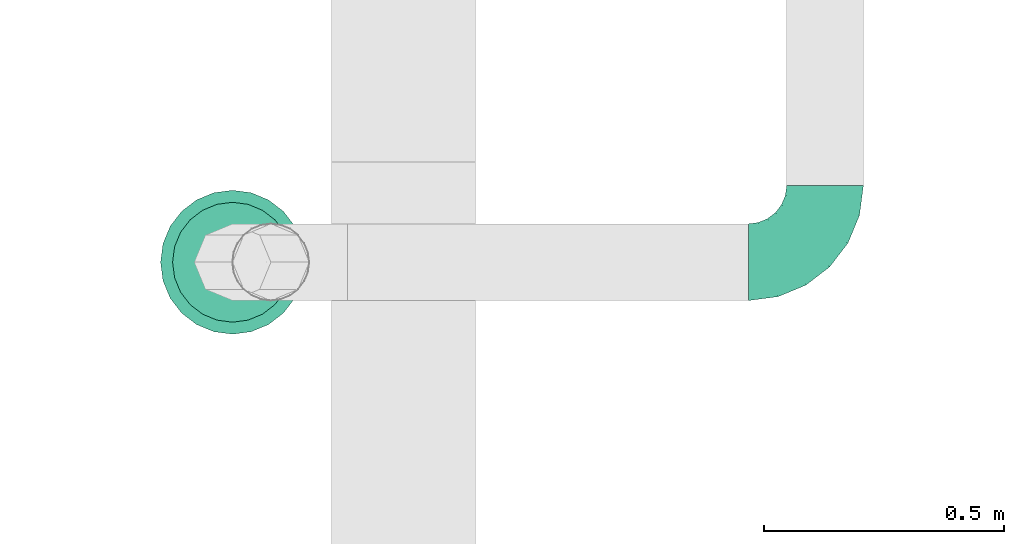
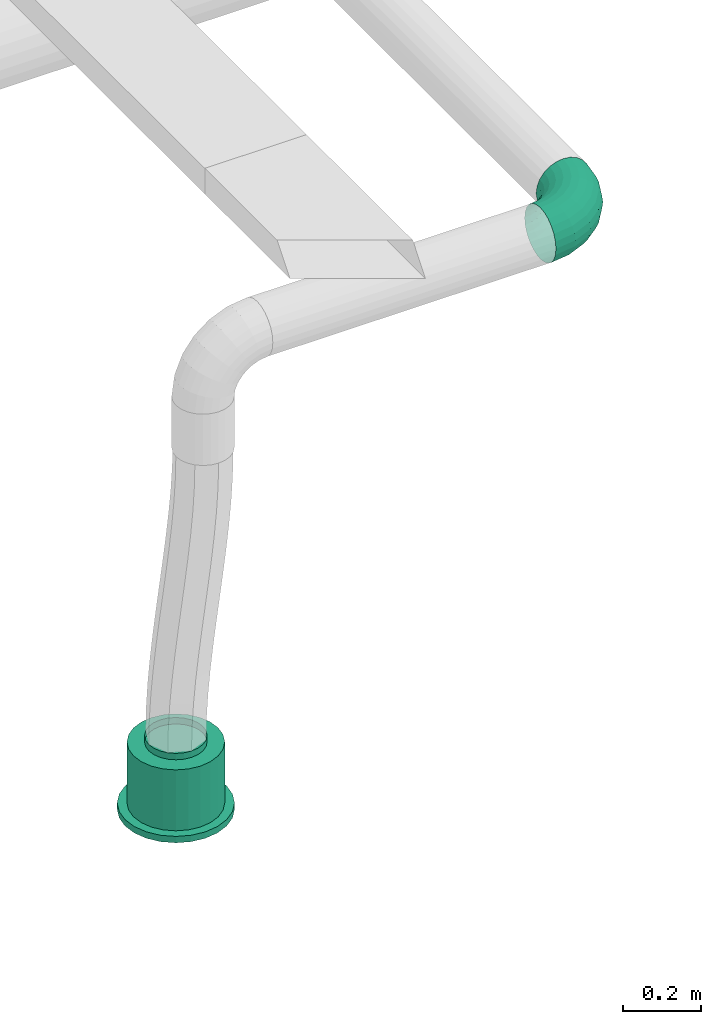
# One storey, part 37 of 374: 1 flow fitting, 1 flow terminal.
"""IFC2X3 building model written with IfcOpenShell, lengths in metres."""

import ifcopenshell
import ifcopenshell.guid

model = None  # the IFC model being written
_history = None  # IfcOwnerHistory: only IFC2X3 demands one
_inside = {}  # id of a spatial element -> (the spatial element, [elements in it])
_under = {}  # id of a project, library or spatial element -> (it, [spatial elements below it])
_declared = {}  # id of a project -> (the project, [libraries it declares])
_typed = {}  # id of a type object -> (the type object, [elements of that type])
_made_of = {}  # id of a material, layer set ... -> (it, [elements and type objects made of it])


def new_model(schema):
    """Start an empty IFC model of exactly this schema.

    Asked for "IFC4X3", IfcOpenShell would pick the latest addendum, in which some entities
    have other attributes; the version numbers below select the first issue.
    IFC2X3 requires an IfcOwnerHistory on every rooted entity: one is made here for all.
    """
    global model, _history
    if schema == "IFC4X3":
        model = ifcopenshell.file(schema_version=(4, 3, 0, 0))
    else:
        model = ifcopenshell.file(schema=schema)
    _inside.clear()
    _under.clear()
    _declared.clear()
    _typed.clear()
    _made_of.clear()
    _history = None
    if model.schema == "IFC2X3":
        org = make("IfcOrganization", Name="unknown")
        user = make(
            "IfcPersonAndOrganization",
            ThePerson=make("IfcPerson", FamilyName="unknown"),
            TheOrganization=org,
        )
        app = make(
            "IfcApplication",
            ApplicationDeveloper=org,
            Version="unknown",
            ApplicationFullName="unknown",
            ApplicationIdentifier="unknown",
        )
        _history = make(
            "IfcOwnerHistory",
            OwningUser=user,
            OwningApplication=app,
            ChangeAction="ADDED",
            CreationDate=0,
        )
    return model


def make(cls, **values):
    """One entity of the class cls with the attributes given. An attribute that is None is left unset."""
    return model.create_entity(
        cls, **{name: value for name, value in values.items() if value is not None}
    )


def rooted(cls, **values):
    """An entity with a GlobalId (a new one), such as an element, a storey or a relation."""
    return make(cls, GlobalId=ifcopenshell.guid.new(), OwnerHistory=_history, **values)


def si_unit(unit_type, name, prefix=None):
    """IfcSIUnit, for example si_unit("LENGTHUNIT", "METRE", prefix="MILLI")."""
    return make("IfcSIUnit", UnitType=unit_type, Prefix=prefix, Name=name)


def assignment(units):
    """IfcUnitAssignment: the units of a project."""
    return None if units is None else make("IfcUnitAssignment", Units=units)


def point(xyz):
    """IfcCartesianPoint."""
    return None if xyz is None else make("IfcCartesianPoint", Coordinates=xyz)


def direction(xyz):
    """IfcDirection."""
    return None if xyz is None else make("IfcDirection", DirectionRatios=xyz)


def frame(location, z_axis=None, x_axis=None):
    """IfcAxis2Placement3D, a coordinate frame: its origin and axes. An axis left out is left unset."""
    return make(
        "IfcAxis2Placement3D",
        Location=point(location),
        Axis=direction(z_axis),
        RefDirection=direction(x_axis),
    )


def origin():
    """The frame at (0, 0, 0) with its axes left unset."""
    return frame((0.0, 0.0, 0.0))


def place(relative_to, where):
    """IfcLocalPlacement: puts the frame where relative to a parent placement (None: the world)."""
    return make(
        "IfcLocalPlacement", PlacementRelTo=relative_to, RelativePlacement=where
    )


def context(
    kind, dimensions, precision=None, world=None, true_north=None, identifier=None
):
    """IfcGeometricRepresentationContext, for example the 3D "Model" context."""
    return make(
        "IfcGeometricRepresentationContext",
        ContextIdentifier=identifier,
        ContextType=kind,
        CoordinateSpaceDimension=dimensions,
        Precision=precision,
        WorldCoordinateSystem=world,
        TrueNorth=true_north,
    )


def subcontext(parent, identifier, kind, view, scale=None):
    """IfcGeometricRepresentationSubContext, for example "Body" below "Model"."""
    return make(
        "IfcGeometricRepresentationSubContext",
        ContextIdentifier=identifier,
        ContextType=kind,
        ParentContext=parent,
        TargetScale=scale,
        TargetView=view,
    )


def project(units=None, contexts=None):
    """IfcProject with its units and contexts."""
    return rooted(
        "IfcProject",
        Name="project",
        RepresentationContexts=contexts,
        UnitsInContext=assignment(units),
    )


def spatial(cls, under=None, at=None, **own):
    """A site, building, storey or space (cls), placed at a placement, below another one or the project."""
    s = rooted(cls, ObjectPlacement=at, **own)
    if under is not None:
        _under.setdefault(under.id(), (under, []))[1].append(s)
    return s


def faces_of(points, faces, orient=None, outer=None):
    """IfcFace entities. A face is a list of loops; a loop is a list of indices into points, from 0.

    orient and outer hold one flag for each loop. By default every Orientation is true, the
    first loop of a face is its IfcFaceOuterBound and the others are IfcFaceBound.
    """
    made = []
    for i, loops in enumerate(faces):
        bounds = []
        for j, loop in enumerate(loops):
            is_outer = j == 0 if outer is None else outer[i][j]
            bounds.append(
                make(
                    "IfcFaceOuterBound" if is_outer else "IfcFaceBound",
                    Bound=make("IfcPolyLoop", Polygon=[points[k] for k in loop]),
                    Orientation=True if orient is None else orient[i][j],
                )
            )
        made.append(make("IfcFace", Bounds=bounds))
    return made


def open_shell(faces, orient=None, outer=None):
    """The faces of one IfcOpenShell. surface_model builds it on its shared points."""
    return ("IfcOpenShell", faces, orient, outer)


def surface_model(cls, points, shells):
    """IfcFaceBasedSurfaceModel or IfcShellBasedSurfaceModel (cls): surfaces that need not close."""
    shared = [point(p) for p in points]
    made = [make(c, CfsFaces=faces_of(shared, fs, o, b)) for c, fs, o, b in shells]
    if cls == "IfcFaceBasedSurfaceModel":
        return make(cls, FbsmFaces=made)
    return make(cls, SbsmBoundary=made)


def shape(context_of_items, identifier, shape_type, items):
    """IfcShapeRepresentation: the items that make up one representation, for example the "Body"."""
    return make(
        "IfcShapeRepresentation",
        ContextOfItems=context_of_items,
        RepresentationIdentifier=identifier,
        RepresentationType=shape_type,
        Items=items,
    )


def source(mapping_origin, context_of_items, identifier, shape_type, items):
    """IfcRepresentationMap: a shape defined once, which mapped items show again and again."""
    return make(
        "IfcRepresentationMap",
        MappingOrigin=mapping_origin,
        MappedRepresentation=shape(context_of_items, identifier, shape_type, items),
    )


def transform(
    local_origin,
    x_axis=None,
    y_axis=None,
    z_axis=None,
    scale=None,
    scale2=None,
    scale3=None,
    uniform=True,
):
    """IfcCartesianTransformationOperator3D, or its non-uniform kind. x_axis, y_axis, z_axis: its Axis1, 2, 3."""
    if uniform:
        return make(
            "IfcCartesianTransformationOperator3D",
            Axis1=direction(x_axis),
            Axis2=direction(y_axis),
            LocalOrigin=point(local_origin),
            Scale=scale,
            Axis3=direction(z_axis),
        )
    return make(
        "IfcCartesianTransformationOperator3DnonUniform",
        Axis1=direction(x_axis),
        Axis2=direction(y_axis),
        LocalOrigin=point(local_origin),
        Scale=scale,
        Axis3=direction(z_axis),
        Scale2=scale2,
        Scale3=scale3,
    )


def mapped(mapping_source, mapping_target):
    """IfcMappedItem: shows the shape of a source again, moved by a transform."""
    return make(
        "IfcMappedItem", MappingSource=mapping_source, MappingTarget=mapping_target
    )


def made_of(thing, what):
    """Note that an element or type object is made of a material, layer set ...; save() writes the relation."""
    if what is not None:
        _made_of.setdefault(what.id(), (what, []))[1].append(thing)
    return thing


def element(
    cls,
    number,
    at=None,
    inside=None,
    cuts=None,
    type_object=None,
    material=None,
    context=None,
    identifier="Body",
    shape_type=None,
    held_by="IfcProductDefinitionShape",
    body=None,
    shapes=None,
    **own,
):
    """One element of the class cls, such as IfcWall. Its Tag is "e" and its number.

    at: its placement. inside: the storey or other place that contains it. cuts: it is an
    opening in that element (IfcRelVoidsElement). A single representation is given by context,
    identifier, shape_type and body (its items); several are given by shapes. held_by: the class
    of the entity that holds the representations. save() writes the other relations.
    """
    e = rooted(cls, Tag="e%d" % number, ObjectPlacement=at, **own)
    if body is not None:
        shapes = [shape(context, identifier, shape_type, body)]
    if shapes is not None:
        e.Representation = make(held_by, Representations=shapes)
    if inside is not None:
        _inside.setdefault(inside.id(), (inside, []))[1].append(e)
    if cuts is not None:
        rooted(
            "IfcRelVoidsElement", RelatingBuildingElement=cuts, RelatedOpeningElement=e
        )
    if type_object is not None:
        _typed.setdefault(type_object.id(), (type_object, []))[1].append(e)
    return made_of(e, material)


def aggregate(whole, parts):
    """IfcRelAggregates: a whole, such as a stair, and the parts it consists of."""
    return rooted("IfcRelAggregates", RelatingObject=whole, RelatedObjects=parts)


def save(model, path):
    """Write the relations noted so far, then the file.

    IfcRelAggregates (storeys below a building ...), IfcRelContainedInSpatialStructure (elements
    in a storey), IfcRelDefinesByType, IfcRelAssociatesMaterial and IfcRelDeclares: one each for
    every whole, place, type object, material and project.
    """
    for whole, parts in _under.values():
        aggregate(whole, parts)
    for where, things in _inside.values():
        rooted(
            "IfcRelContainedInSpatialStructure",
            RelatedElements=things,
            RelatingStructure=where,
        )
    for kind, things in _typed.values():
        rooted("IfcRelDefinesByType", RelatedObjects=things, RelatingType=kind)
    for what, things in _made_of.values():
        rooted("IfcRelAssociatesMaterial", RelatedObjects=things, RelatingMaterial=what)
    for by, libraries in _declared.values():
        rooted("IfcRelDeclares", RelatingContext=by, RelatedDefinitions=libraries)
    model.write(path)


model = new_model("IFC2X3")

# Units and contexts
model_context = context("Model", 3, precision=1e-05, world=origin(), true_north=direction((-0.4480736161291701, 0.8939966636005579)))
body_context = subcontext(model_context, "Body", "Model", "MODEL_VIEW")
ifc_project = project(units=[si_unit("LENGTHUNIT", "METRE"), si_unit("AREAUNIT", "SQUARE_METRE"), si_unit("VOLUMEUNIT", "CUBIC_METRE"), si_unit("PLANEANGLEUNIT", "RADIAN"), si_unit("THERMODYNAMICTEMPERATUREUNIT", "KELVIN"), si_unit("MASSUNIT", "GRAM", prefix="KILO"), si_unit("TIMEUNIT", "SECOND")], contexts=[model_context])

# Site, building, storey
site_placement = place(None, origin())
site = spatial("IfcSite", under=ifc_project, at=site_placement, Name="Site 1", CompositionType="ELEMENT")
building_placement = place(site_placement, origin())
building = spatial("IfcBuilding", under=site, at=building_placement, Name="Undefined", CompositionType="ELEMENT")
storey_placement = place(building_placement, origin())
storey = spatial("IfcBuildingStorey", under=building, at=storey_placement, Name="Rez de chauss\x8ee", CompositionType="ELEMENT", Elevation=0.0)

# Flow terminal
shared_shape_1 = source(origin(), body_context, "Body", "SurfaceModel", [
    surface_model("IfcFaceBasedSurfaceModel", [(0.0, 0.0, 0.0), (0.03915785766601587, 0.0, 0.0), (0.03915785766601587, 0.020000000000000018, 0.0), (3.552713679e-15, 0.020000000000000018, 0.0), (0.07698144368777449, 0.0, -0.010134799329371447), (0.07698144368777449, 0.020000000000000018, -0.010134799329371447), (0.11089314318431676, 0.0, -0.02971372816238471), (0.11089314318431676, 0.020000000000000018, -0.02971372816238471), (0.13858192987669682, 0.0, -0.05740251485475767), (0.13858192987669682, 0.020000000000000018, -0.05740251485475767), (0.15816085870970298, 0.0, -0.09131421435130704), (0.15816085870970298, 0.020000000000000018, -0.09131421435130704), (0.16829565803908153, 0.0, -0.12913780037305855), (0.16829565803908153, 0.020000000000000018, -0.12913780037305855), (0.16829565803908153, 0.0, -0.16829565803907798), (0.16829565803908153, 0.020000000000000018, -0.16829565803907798), (0.15816085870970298, 0.0, -0.20611924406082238), (0.15816085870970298, 0.020000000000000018, -0.20611924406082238), (0.13858192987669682, 0.0, -0.24003094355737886), (0.13858192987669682, 0.020000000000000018, -0.24003094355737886), (0.11089314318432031, 0.0, -0.2677197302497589), (0.11089314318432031, 0.020000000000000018, -0.2677197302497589), (0.07698144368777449, 0.0, -0.2872986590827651), (0.07698144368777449, 0.020000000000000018, -0.2872986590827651), (0.039157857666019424, 0.0, -0.29743345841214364), (0.039157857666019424, 0.020000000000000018, -0.29743345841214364), (3.552713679e-15, 0.0, -0.29743345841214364), (3.552713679e-15, 0.020000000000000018, -0.29743345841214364), (-0.03782358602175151, 0.0, -0.2872986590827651), (-0.03782358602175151, 0.020000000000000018, -0.2872986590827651), (-0.07173528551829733, 0.0, -0.2677197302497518), (-0.07173528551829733, 0.020000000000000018, -0.2677197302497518), (-0.0994240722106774, 0.0, -0.24003094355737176), (-0.0994240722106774, 0.020000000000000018, -0.24003094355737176), (-0.11900300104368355, 0.0, -0.2061192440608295), (-0.11900300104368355, 0.020000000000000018, -0.2061192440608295), (-0.1291378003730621, 0.0, -0.16829565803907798), (-0.1291378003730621, 0.020000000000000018, -0.16829565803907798), (-0.1291378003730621, 0.0, -0.12913780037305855), (-0.1291378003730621, 0.020000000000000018, -0.12913780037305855), (-0.11900300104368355, 0.0, -0.09131421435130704), (-0.11900300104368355, 0.020000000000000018, -0.09131421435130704), (-0.0994240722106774, 0.0, -0.05740251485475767), (-0.0994240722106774, 0.020000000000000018, -0.05740251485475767), (-0.07173528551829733, 0.0, -0.029713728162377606), (-0.07173528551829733, 0.020000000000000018, -0.029713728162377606), (-0.03782358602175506, 0.0, -0.010134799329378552), (-0.03782358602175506, 0.020000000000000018, -0.010134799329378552), (0.019578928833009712, 0.0, -0.14871672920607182), (0.019578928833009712, 0.020000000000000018, -0.14871672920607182), (0.003263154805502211, 0.020000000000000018, -0.02478612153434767), (0.035894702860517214, 0.020000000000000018, -0.02478612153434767), (0.035894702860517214, 0.20999999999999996, -0.02478612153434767), (0.003263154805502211, 0.20999999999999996, -0.02478612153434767), (0.06741435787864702, 0.020000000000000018, -0.033231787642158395), (0.06741435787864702, 0.20999999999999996, -0.033231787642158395), (0.0956741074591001, 0.020000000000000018, -0.04954756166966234), (0.0956741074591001, 0.20999999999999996, -0.04954756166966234), (0.11874809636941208, 0.020000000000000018, -0.07262155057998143), (0.11874809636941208, 0.20999999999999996, -0.07262155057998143), (0.13506387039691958, 0.020000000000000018, -0.10088130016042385), (0.13506387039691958, 0.20999999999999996, -0.10088130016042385), (0.1435095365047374, 0.020000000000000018, -0.13240095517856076), (0.1435095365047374, 0.20999999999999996, -0.13240095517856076), (0.1435095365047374, 0.020000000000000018, -0.16503250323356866), (0.1435095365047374, 0.20999999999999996, -0.16503250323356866), (0.13506387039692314, 0.020000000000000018, -0.19655215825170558), (0.13506387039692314, 0.20999999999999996, -0.19655215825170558), (0.11874809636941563, 0.020000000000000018, -0.2248119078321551), (0.11874809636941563, 0.20999999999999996, -0.2248119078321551), (0.09567410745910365, 0.020000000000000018, -0.24788589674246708), (0.09567410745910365, 0.20999999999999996, -0.24788589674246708), (0.06741435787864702, 0.020000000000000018, -0.26420167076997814), (0.06741435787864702, 0.20999999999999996, -0.26420167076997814), (0.035894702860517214, 0.020000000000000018, -0.27264733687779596), (0.035894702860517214, 0.20999999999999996, -0.27264733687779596), (0.0032631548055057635, 0.020000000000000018, -0.27264733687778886), (0.0032631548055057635, 0.20999999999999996, -0.27264733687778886), (-0.028256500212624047, 0.020000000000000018, -0.26420167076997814), (-0.028256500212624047, 0.20999999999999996, -0.26420167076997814), (-0.05651624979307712, 0.020000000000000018, -0.2478858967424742), (-0.05651624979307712, 0.20999999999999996, -0.2478858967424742), (-0.07959023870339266, 0.020000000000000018, -0.2248119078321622), (-0.07959023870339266, 0.20999999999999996, -0.2248119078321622), (-0.09590601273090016, 0.020000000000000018, -0.19655215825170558), (-0.09590601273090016, 0.20999999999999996, -0.19655215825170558), (-0.10435167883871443, 0.020000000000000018, -0.16503250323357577), (-0.10435167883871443, 0.20999999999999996, -0.16503250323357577), (-0.10435167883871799, 0.020000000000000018, -0.13240095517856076), (-0.10435167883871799, 0.20999999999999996, -0.13240095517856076), (-0.09590601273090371, 0.020000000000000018, -0.10088130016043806), (-0.09590601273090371, 0.20999999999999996, -0.10088130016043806), (-0.07959023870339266, 0.020000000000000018, -0.07262155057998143), (-0.07959023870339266, 0.20999999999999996, -0.07262155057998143), (-0.056516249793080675, 0.020000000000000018, -0.04954756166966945), (-0.056516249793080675, 0.20999999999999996, -0.04954756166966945), (-0.028256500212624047, 0.020000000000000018, -0.033231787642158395), (-0.028256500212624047, 0.20999999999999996, -0.033231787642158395), (0.019578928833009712, 0.20999999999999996, -0.14871672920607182), (0.009136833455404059, 0.20999999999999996, -0.06940114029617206), (0.030021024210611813, 0.20999999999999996, -0.06940114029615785), (0.030021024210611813, 0.22999999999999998, -0.06940114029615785), (0.009136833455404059, 0.22999999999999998, -0.06940114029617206), (0.05019360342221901, 0.20999999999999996, -0.07480636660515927), (0.05019360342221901, 0.22999999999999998, -0.07480636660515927), (0.06827984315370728, 0.20999999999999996, -0.08524846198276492), (0.06827984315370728, 0.22999999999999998, -0.08524846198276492), (0.0830471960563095, 0.20999999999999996, -0.10001581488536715), (0.0830471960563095, 0.22999999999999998, -0.10001581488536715), (0.0934892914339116, 0.20999999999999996, -0.11810205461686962), (0.0934892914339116, 0.22999999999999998, -0.11810205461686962), (0.09889451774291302, 0.20999999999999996, -0.13827463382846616), (0.09889451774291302, 0.22999999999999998, -0.13827463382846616), (0.09889451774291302, 0.20999999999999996, -0.15915882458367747), (0.09889451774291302, 0.22999999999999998, -0.15915882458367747), (0.09348929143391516, 0.20999999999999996, -0.179331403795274), (0.09348929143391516, 0.22999999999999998, -0.179331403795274), (0.0830471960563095, 0.20999999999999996, -0.19741764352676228), (0.0830471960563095, 0.22999999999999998, -0.19741764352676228), (0.06827984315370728, 0.20999999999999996, -0.2121849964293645), (0.06827984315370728, 0.22999999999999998, -0.2121849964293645), (0.05019360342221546, 0.20999999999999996, -0.22262709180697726), (0.05019360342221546, 0.22999999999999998, -0.22262709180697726), (0.030021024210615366, 0.20999999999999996, -0.22803231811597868), (0.030021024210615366, 0.22999999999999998, -0.22803231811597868), (0.009136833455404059, 0.20999999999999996, -0.22803231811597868), (0.009136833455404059, 0.22999999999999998, -0.22803231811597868), (-0.011035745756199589, 0.20999999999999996, -0.22262709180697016), (-0.011035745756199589, 0.22999999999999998, -0.22262709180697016), (-0.0291219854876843, 0.20999999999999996, -0.2121849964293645), (-0.0291219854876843, 0.22999999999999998, -0.2121849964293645), (-0.043889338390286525, 0.20999999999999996, -0.19741764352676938), (-0.043889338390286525, 0.22999999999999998, -0.19741764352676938), (-0.05433143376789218, 0.20999999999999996, -0.17933140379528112), (-0.05433143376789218, 0.22999999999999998, -0.17933140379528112), (-0.05973666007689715, 0.20999999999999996, -0.15915882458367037), (-0.05973666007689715, 0.22999999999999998, -0.15915882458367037), (-0.0597366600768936, 0.20999999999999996, -0.13827463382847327), (-0.0597366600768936, 0.22999999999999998, -0.13827463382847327), (-0.05433143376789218, 0.20999999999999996, -0.11810205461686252), (-0.05433143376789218, 0.22999999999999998, -0.11810205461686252), (-0.043889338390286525, 0.20999999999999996, -0.10001581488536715), (-0.043889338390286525, 0.22999999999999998, -0.10001581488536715), (-0.02912198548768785, 0.20999999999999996, -0.08524846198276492), (-0.02912198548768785, 0.22999999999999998, -0.08524846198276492), (-0.011035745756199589, 0.20999999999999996, -0.07480636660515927), (-0.011035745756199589, 0.22999999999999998, -0.07480636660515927)], [open_shell([[[0, 1, 2, 3]], [[1, 4, 5, 2]], [[4, 6, 7, 5]], [[6, 8, 9, 7]], [[8, 10, 11, 9]], [[10, 12, 13, 11]], [[12, 14, 15, 13]], [[14, 16, 17, 15]], [[16, 18, 19, 17]], [[18, 20, 21, 19]], [[20, 22, 23, 21]], [[22, 24, 25, 23]], [[24, 26, 27, 25]], [[26, 28, 29, 27]], [[28, 30, 31, 29]], [[30, 32, 33, 31]], [[32, 34, 35, 33]], [[34, 36, 37, 35]], [[36, 38, 39, 37]], [[38, 40, 41, 39]], [[40, 42, 43, 41]], [[42, 44, 45, 43]], [[44, 46, 47, 45]], [[46, 0, 3, 47]], [[48, 1, 0]], [[48, 4, 1]], [[48, 6, 4]], [[48, 8, 6]], [[48, 10, 8]], [[48, 12, 10]], [[48, 14, 12]], [[48, 16, 14]], [[48, 18, 16]], [[48, 20, 18]], [[48, 22, 20]], [[48, 24, 22]], [[48, 26, 24]], [[48, 28, 26]], [[48, 30, 28]], [[48, 32, 30]], [[48, 34, 32]], [[48, 36, 34]], [[48, 38, 36]], [[48, 40, 38]], [[48, 42, 40]], [[48, 44, 42]], [[48, 46, 44]], [[48, 0, 46]], [[49, 47, 3]], [[49, 45, 47]], [[49, 43, 45]], [[49, 41, 43]], [[49, 39, 41]], [[49, 37, 39]], [[49, 35, 37]], [[49, 33, 35]], [[49, 31, 33]], [[49, 29, 31]], [[49, 27, 29]], [[49, 25, 27]], [[49, 23, 25]], [[49, 21, 23]], [[49, 19, 21]], [[49, 17, 19]], [[49, 15, 17]], [[49, 13, 15]], [[49, 11, 13]], [[49, 9, 11]], [[49, 7, 9]], [[49, 5, 7]], [[49, 2, 5]], [[49, 3, 2]], [[50, 51, 52, 53]], [[51, 54, 55, 52]], [[54, 56, 57, 55]], [[56, 58, 59, 57]], [[58, 60, 61, 59]], [[60, 62, 63, 61]], [[62, 64, 65, 63]], [[64, 66, 67, 65]], [[66, 68, 69, 67]], [[68, 70, 71, 69]], [[70, 72, 73, 71]], [[72, 74, 75, 73]], [[74, 76, 77, 75]], [[76, 78, 79, 77]], [[78, 80, 81, 79]], [[80, 82, 83, 81]], [[82, 84, 85, 83]], [[84, 86, 87, 85]], [[86, 88, 89, 87]], [[88, 90, 91, 89]], [[90, 92, 93, 91]], [[92, 94, 95, 93]], [[94, 96, 97, 95]], [[96, 50, 53, 97]], [[49, 51, 50]], [[49, 54, 51]], [[49, 56, 54]], [[49, 58, 56]], [[49, 60, 58]], [[49, 62, 60]], [[49, 64, 62]], [[49, 66, 64]], [[49, 68, 66]], [[49, 70, 68]], [[49, 72, 70]], [[49, 74, 72]], [[49, 76, 74]], [[49, 78, 76]], [[49, 80, 78]], [[49, 82, 80]], [[49, 84, 82]], [[49, 86, 84]], [[49, 88, 86]], [[49, 90, 88]], [[49, 92, 90]], [[49, 94, 92]], [[49, 96, 94]], [[49, 50, 96]], [[98, 97, 53]], [[98, 95, 97]], [[98, 93, 95]], [[98, 91, 93]], [[98, 89, 91]], [[98, 87, 89]], [[98, 85, 87]], [[98, 83, 85]], [[98, 81, 83]], [[98, 79, 81]], [[98, 77, 79]], [[98, 75, 77]], [[98, 73, 75]], [[98, 71, 73]], [[98, 69, 71]], [[98, 67, 69]], [[98, 65, 67]], [[98, 63, 65]], [[98, 61, 63]], [[98, 59, 61]], [[98, 57, 59]], [[98, 55, 57]], [[98, 52, 55]], [[98, 53, 52]], [[99, 100, 101, 102]], [[100, 103, 104, 101]], [[103, 105, 106, 104]], [[105, 107, 108, 106]], [[107, 109, 110, 108]], [[109, 111, 112, 110]], [[111, 113, 114, 112]], [[113, 115, 116, 114]], [[115, 117, 118, 116]], [[117, 119, 120, 118]], [[119, 121, 122, 120]], [[121, 123, 124, 122]], [[123, 125, 126, 124]], [[125, 127, 128, 126]], [[127, 129, 130, 128]], [[129, 131, 132, 130]], [[131, 133, 134, 132]], [[133, 135, 136, 134]], [[135, 137, 138, 136]], [[137, 139, 140, 138]], [[139, 141, 142, 140]], [[141, 143, 144, 142]], [[143, 145, 146, 144]], [[145, 99, 102, 146]]])]),
])
flow_terminal_placement = place(storey_placement, origin())
element("IfcFlowTerminal", 1, at=flow_terminal_placement, inside=storey, Name="Air diffuseur - bouche", ObjectType="Air diffuseur - bouche", context=body_context, shape_type="MappedRepresentation", body=[
    mapped(shared_shape_1, transform((9.204632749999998, 21.301586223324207, 2.38), x_axis=(-0.13052619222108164, 0.9914448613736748, 0.0), y_axis=(0.0, 0.0, 1.0), z_axis=(0.9914448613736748, 0.13052619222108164, 0.0))),
])

# Flow fitting
shared_shape_2 = source(origin(), body_context, "Body", "SurfaceModel", [
    surface_model("IfcFaceBasedSurfaceModel", [(0.06265257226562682, -8.8817842e-16, 0.0), (0.062296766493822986, 0.02088115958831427, -7.105427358e-15), (0.0003558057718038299, 0.020881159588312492, 7.105427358e-15), (0.0, 0.0, 0.0), (-0.059474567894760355, 0.022956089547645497, -0.015896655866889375), (-0.06051773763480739, 0.002098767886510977, -0.01607928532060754), (-0.11311701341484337, 0.02696454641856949, -0.04660663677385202), (-0.11477645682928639, 0.006153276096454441, -0.04714207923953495), (-0.15691588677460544, 0.0326333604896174, -0.09003710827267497), (-0.15907851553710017, 0.01188721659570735, -0.09107150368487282), (-0.18788636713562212, 0.03957621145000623, -0.14322835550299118), (-0.1904048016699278, 0.01890983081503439, -0.14487384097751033), (-0.2039178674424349, 0.04731995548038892, -0.20255548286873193), (-0.20662048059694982, 0.026742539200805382, -0.20488255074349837), (0.061253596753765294, 0.04103889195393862, -0.0053597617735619), (0.0013989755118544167, 0.04103889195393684, -0.005359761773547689), (-0.05641614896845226, 0.04304393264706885, -0.02072097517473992), (-0.10825177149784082, 0.04691737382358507, -0.050396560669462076), (-0.15057538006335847, 0.05239524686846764, -0.09236417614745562), (-0.18050269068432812, 0.05910424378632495, -0.14376379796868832), (-0.19599420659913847, 0.06658715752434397, -0.20109262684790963), (0.05959415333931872, 0.05909948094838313, -0.01571402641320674), (0.003058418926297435, 0.05909948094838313, -0.01571402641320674), (-0.05155090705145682, 0.06099334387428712, -0.030223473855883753), (-0.10051228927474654, 0.06465200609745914, -0.058253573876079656), (-0.1404890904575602, 0.0698261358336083, -0.09789412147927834), (-0.16875695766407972, 0.0761631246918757, -0.14644367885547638), (-0.18338948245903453, 0.08323111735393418, -0.2005936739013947), (0.057431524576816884, 0.07383212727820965, -0.030357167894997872), (0.005221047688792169, 0.07383212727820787, -0.03035716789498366), (-0.0452104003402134, 0.07558110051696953, -0.04375657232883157), (-0.09042599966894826, 0.07895985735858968, -0.06964223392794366), (-0.12734438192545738, 0.08373814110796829, -0.10625008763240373), (-0.15344962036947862, 0.08959031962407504, -0.15108536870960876), (-0.16696268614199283, 0.0961175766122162, -0.20109262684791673), (0.054913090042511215, 0.0842328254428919, -0.048291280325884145), (0.007739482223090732, 0.08423282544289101, -0.04829128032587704), (-0.037826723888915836, 0.08581307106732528, -0.06039801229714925), (-0.07868026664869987, 0.08886587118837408, -0.08378642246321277), (-0.11203704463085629, 0.09318318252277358, -0.11686262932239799), (-0.13562384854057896, 0.09847078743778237, -0.1573725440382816), (-0.14783327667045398, 0.10436834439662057, -0.20255548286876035), (0.05221047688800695, 0.0895927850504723, -0.06829418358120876), (0.010442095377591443, 0.08959278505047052, -0.06829418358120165), (-0.029903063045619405, 0.09099196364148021, -0.07901370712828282), (-0.06607554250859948, 0.09369496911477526, -0.0997222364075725), (-0.0956102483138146, 0.0975175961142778, -0.12900851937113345), (-0.11649443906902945, 0.10219933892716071, -0.16487674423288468), (-0.12730489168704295, 0.1074211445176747, -0.2048825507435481), (0.04950786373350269, 0.08954673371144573, -0.08900271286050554), (0.013144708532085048, 0.08954673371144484, -0.08900271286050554), (-0.02197940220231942, 0.09076484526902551, -0.09833502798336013), (-0.05347081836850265, 0.09311805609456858, -0.11636367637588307), (-0.0791834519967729, 0.09644599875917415, -0.14186003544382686), (-0.09736502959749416, 0.10052187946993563, -0.17308657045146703), (-0.10677650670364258, 0.1050679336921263, -0.20791524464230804), (0.04698942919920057, 0.08409780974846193, -0.10900561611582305), (0.015663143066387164, 0.08409780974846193, -0.10900561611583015), (-0.014595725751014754, 0.08514719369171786, -0.11704525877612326), (-0.0417250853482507, 0.0871744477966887, -0.13257665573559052), (-0.06387611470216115, 0.09004141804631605, -0.15454136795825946), (-0.07953925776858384, 0.09355272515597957, -0.1814425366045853), (-0.08764709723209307, 0.09746907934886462, -0.21144689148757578), (0.04482680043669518, 0.0736173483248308, -0.12693972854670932), (0.017825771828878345, 0.0736173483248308, -0.12693972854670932), (-0.008255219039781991, 0.07452184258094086, -0.13386932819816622), (-0.03163879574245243, 0.0762691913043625, -0.14725628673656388), (-0.050731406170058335, 0.07874031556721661, -0.1661883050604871), (-0.06423192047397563, 0.08176681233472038, -0.18937519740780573), (-0.07122030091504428, 0.08514243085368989, -0.21523681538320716), (0.04316735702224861, 0.058819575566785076, -0.14158287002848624), (0.019485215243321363, 0.058819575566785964, -0.14158287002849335), (-0.0033899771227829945, 0.05961289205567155, -0.14766070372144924), (-0.02389931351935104, 0.06114546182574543, -0.15940217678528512), (-0.04064511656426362, 0.06331284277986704, -0.17600712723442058), (-0.052486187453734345, 0.06596733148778, -0.19634395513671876), (-0.05861557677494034, 0.06892802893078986, -0.2190267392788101), (0.04212418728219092, 0.040712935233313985, -0.15193713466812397), (0.020528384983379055, 0.040712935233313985, -0.15193713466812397), (-0.0003315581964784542, 0.041436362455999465, -0.15747952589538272), (-0.019034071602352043, 0.04283391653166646, -0.16818660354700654), (-0.03430460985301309, 0.04481035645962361, -0.1833286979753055), (-0.04510251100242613, 0.047230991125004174, -0.20187390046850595), (-0.05069191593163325, 0.04993085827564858, -0.22255838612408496), (0.04176838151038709, 0.02053136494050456, -0.15729689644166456), (0.020884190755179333, 0.02053136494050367, -0.15729689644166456), (0.0007116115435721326, 0.021230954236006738, -0.16265665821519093), (-0.017374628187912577, 0.022582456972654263, -0.17301092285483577), (-0.03214198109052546, 0.024493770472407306, -0.1876540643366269), (-0.042584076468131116, 0.026834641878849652, -0.20558817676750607), (-0.04798930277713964, 0.02944554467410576, -0.22559108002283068), (0.04212418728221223, -0.000349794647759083, -0.15729689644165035), (0.020528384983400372, -0.000349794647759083, -0.15729689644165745), (-0.0003315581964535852, 0.00037363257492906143, -0.1628392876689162), (-0.019034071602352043, 0.0017711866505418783, -0.17354636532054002), (-0.03430460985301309, 0.0037476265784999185, -0.18868845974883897), (-0.04510251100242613, 0.00616826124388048, -0.20723366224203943), (-0.05069191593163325, 0.008868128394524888, -0.22791814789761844), (0.04316735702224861, -0.020507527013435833, -0.15193713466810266), (0.019485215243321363, -0.020507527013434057, -0.15193713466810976), (-0.0033899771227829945, -0.019714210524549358, -0.15801496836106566), (-0.02389931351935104, -0.01818164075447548, -0.16975644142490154), (-0.04064511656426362, -0.01601425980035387, -0.186361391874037), (-0.052486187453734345, -0.013359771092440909, -0.20669821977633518), (-0.05861557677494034, -0.010399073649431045, -0.22938100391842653), (0.04482680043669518, -0.03856811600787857, -0.1415828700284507), (0.017825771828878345, -0.03856811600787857, -0.1415828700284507), (-0.008255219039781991, -0.03766362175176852, -0.1485124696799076), (-0.03163879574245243, -0.03591627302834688, -0.16189942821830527), (-0.050731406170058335, -0.03344514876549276, -0.1808314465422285), (-0.06423192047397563, -0.030418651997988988, -0.20401833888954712), (-0.07122030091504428, -0.027043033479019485, -0.22987995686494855), (0.04698942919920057, -0.05330076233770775, -0.12693972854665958), (0.015663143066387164, -0.05330076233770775, -0.12693972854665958), (-0.014595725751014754, -0.05225137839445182, -0.1349793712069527), (-0.0417250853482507, -0.05022412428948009, -0.15051076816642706), (-0.06387611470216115, -0.047357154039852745, -0.172475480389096), (-0.07953925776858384, -0.043845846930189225, -0.19937664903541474), (-0.08764709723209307, -0.03992949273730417, -0.2293810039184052), (0.04950786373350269, -0.06370146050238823, -0.10900561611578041), (0.013144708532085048, -0.06370146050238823, -0.10900561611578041), (-0.02197940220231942, -0.06248334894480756, -0.11833793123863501), (-0.05347081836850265, -0.06013013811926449, -0.13636657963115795), (-0.0791834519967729, -0.05680219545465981, -0.16186293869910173), (-0.09736502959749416, -0.05272631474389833, -0.1930894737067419), (-0.10677650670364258, -0.04818026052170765, -0.2279181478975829), (0.05221047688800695, -0.06906142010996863, -0.08900271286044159), (0.010442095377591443, -0.06906142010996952, -0.08900271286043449), (-0.029903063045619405, -0.06766224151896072, -0.09972223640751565), (-0.06607554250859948, -0.06495923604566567, -0.12043076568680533), (-0.0956102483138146, -0.06113660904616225, -0.14971704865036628), (-0.11649443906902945, -0.05645486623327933, -0.1855852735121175), (-0.12730489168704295, -0.05123306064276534, -0.22559108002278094), (0.054913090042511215, -0.06901536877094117, -0.06829418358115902), (0.007739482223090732, -0.06901536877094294, -0.06829418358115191), (-0.037826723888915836, -0.06743512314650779, -0.08040091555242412), (-0.07868026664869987, -0.06438232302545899, -0.10378932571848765), (-0.11203704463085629, -0.06006501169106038, -0.13686553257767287), (-0.13562384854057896, -0.0547774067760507, -0.17737544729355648), (-0.14783327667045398, -0.04887984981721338, -0.22255838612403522), (0.057431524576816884, -0.06356644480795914, -0.0482912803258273), (0.005221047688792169, -0.06356644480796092, -0.04829128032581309), (-0.0452104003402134, -0.061817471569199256, -0.0616906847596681), (-0.09042599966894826, -0.05843871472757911, -0.0875763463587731), (-0.12734438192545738, -0.05366043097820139, -0.12418420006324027), (-0.15344962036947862, -0.04780825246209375, -0.1690194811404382), (-0.16696268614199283, -0.041280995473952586, -0.21902673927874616), (0.05959415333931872, -0.05308598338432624, -0.030357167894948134), (0.003058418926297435, -0.05308598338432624, -0.030357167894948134), (-0.05155090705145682, -0.05119212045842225, -0.04486661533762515), (-0.10051228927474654, -0.04753345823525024, -0.07289671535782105), (-0.1404890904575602, -0.04235932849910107, -0.11253726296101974), (-0.16875695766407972, -0.03602233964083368, -0.16108682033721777), (-0.18338948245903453, -0.02895434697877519, -0.2152368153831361), (0.061253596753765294, -0.03828821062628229, -0.015714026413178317), (0.0013989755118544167, -0.03828821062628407, -0.015714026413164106), (-0.05641614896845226, -0.03628316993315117, -0.031075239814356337), (-0.10825177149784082, -0.03240972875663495, -0.06075082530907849), (-0.15057538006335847, -0.026931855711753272, -0.10271844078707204), (-0.18050269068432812, -0.02022285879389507, -0.15411806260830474), (-0.19599420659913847, -0.012739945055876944, -0.21144689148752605), (0.062296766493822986, -0.020181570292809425, -0.005359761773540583), (0.0003558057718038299, -0.020181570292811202, -0.0053597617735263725), (-0.059474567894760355, -0.018106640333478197, -0.021256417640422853), (-0.11311701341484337, -0.014098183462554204, -0.051966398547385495), (-0.15691588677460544, -0.00842936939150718, -0.09539687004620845), (-0.18788636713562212, -0.0014865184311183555, -0.14858811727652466), (-0.2039178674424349, 0.006257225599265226, -0.2079152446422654)], [open_shell([[[0, 1, 2, 3]], [[3, 2, 4, 5]], [[5, 4, 6, 7]], [[7, 6, 8, 9]], [[9, 8, 10, 11]], [[11, 10, 12, 13]], [[1, 14, 15, 2]], [[2, 15, 16, 4]], [[4, 16, 17, 6]], [[6, 17, 18, 8]], [[8, 18, 19, 10]], [[10, 19, 20, 12]], [[14, 21, 22, 15]], [[15, 22, 23, 16]], [[16, 23, 24, 17]], [[17, 24, 25, 18]], [[18, 25, 26, 19]], [[19, 26, 27, 20]], [[21, 28, 29, 22]], [[22, 29, 30, 23]], [[23, 30, 31, 24]], [[24, 31, 32, 25]], [[25, 32, 33, 26]], [[26, 33, 34, 27]], [[28, 35, 36, 29]], [[29, 36, 37, 30]], [[30, 37, 38, 31]], [[31, 38, 39, 32]], [[32, 39, 40, 33]], [[33, 40, 41, 34]], [[35, 42, 43, 36]], [[36, 43, 44, 37]], [[37, 44, 45, 38]], [[38, 45, 46, 39]], [[39, 46, 47, 40]], [[40, 47, 48, 41]], [[42, 49, 50, 43]], [[43, 50, 51, 44]], [[44, 51, 52, 45]], [[45, 52, 53, 46]], [[46, 53, 54, 47]], [[47, 54, 55, 48]], [[49, 56, 57, 50]], [[50, 57, 58, 51]], [[51, 58, 59, 52]], [[52, 59, 60, 53]], [[53, 60, 61, 54]], [[54, 61, 62, 55]], [[56, 63, 64, 57]], [[57, 64, 65, 58]], [[58, 65, 66, 59]], [[59, 66, 67, 60]], [[60, 67, 68, 61]], [[61, 68, 69, 62]], [[63, 70, 71, 64]], [[64, 71, 72, 65]], [[65, 72, 73, 66]], [[66, 73, 74, 67]], [[67, 74, 75, 68]], [[68, 75, 76, 69]], [[70, 77, 78, 71]], [[71, 78, 79, 72]], [[72, 79, 80, 73]], [[73, 80, 81, 74]], [[74, 81, 82, 75]], [[75, 82, 83, 76]], [[77, 84, 85, 78]], [[78, 85, 86, 79]], [[79, 86, 87, 80]], [[80, 87, 88, 81]], [[81, 88, 89, 82]], [[82, 89, 90, 83]], [[84, 91, 92, 85]], [[85, 92, 93, 86]], [[86, 93, 94, 87]], [[87, 94, 95, 88]], [[88, 95, 96, 89]], [[89, 96, 97, 90]], [[91, 98, 99, 92]], [[92, 99, 100, 93]], [[93, 100, 101, 94]], [[94, 101, 102, 95]], [[95, 102, 103, 96]], [[96, 103, 104, 97]], [[98, 105, 106, 99]], [[99, 106, 107, 100]], [[100, 107, 108, 101]], [[101, 108, 109, 102]], [[102, 109, 110, 103]], [[103, 110, 111, 104]], [[105, 112, 113, 106]], [[106, 113, 114, 107]], [[107, 114, 115, 108]], [[108, 115, 116, 109]], [[109, 116, 117, 110]], [[110, 117, 118, 111]], [[112, 119, 120, 113]], [[113, 120, 121, 114]], [[114, 121, 122, 115]], [[115, 122, 123, 116]], [[116, 123, 124, 117]], [[117, 124, 125, 118]], [[119, 126, 127, 120]], [[120, 127, 128, 121]], [[121, 128, 129, 122]], [[122, 129, 130, 123]], [[123, 130, 131, 124]], [[124, 131, 132, 125]], [[126, 133, 134, 127]], [[127, 134, 135, 128]], [[128, 135, 136, 129]], [[129, 136, 137, 130]], [[130, 137, 138, 131]], [[131, 138, 139, 132]], [[133, 140, 141, 134]], [[134, 141, 142, 135]], [[135, 142, 143, 136]], [[136, 143, 144, 137]], [[137, 144, 145, 138]], [[138, 145, 146, 139]], [[140, 147, 148, 141]], [[141, 148, 149, 142]], [[142, 149, 150, 143]], [[143, 150, 151, 144]], [[144, 151, 152, 145]], [[145, 152, 153, 146]], [[147, 154, 155, 148]], [[148, 155, 156, 149]], [[149, 156, 157, 150]], [[150, 157, 158, 151]], [[151, 158, 159, 152]], [[152, 159, 160, 153]], [[154, 161, 162, 155]], [[155, 162, 163, 156]], [[156, 163, 164, 157]], [[157, 164, 165, 158]], [[158, 165, 166, 159]], [[159, 166, 167, 160]], [[161, 0, 3, 162]], [[162, 3, 5, 163]], [[163, 5, 7, 164]], [[164, 7, 9, 165]], [[165, 9, 11, 166]], [[166, 11, 13, 167]]])]),
])
flow_fitting_placement = place(storey_placement, origin())
element("IfcFlowFitting", 2, at=flow_fitting_placement, inside=storey, Name="Coude", ObjectType="Coude", context=body_context, shape_type="MappedRepresentation", body=[
    mapped(shared_shape_2, transform((10.361823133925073, 21.399505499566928, 3.8000000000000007), x_axis=(0.13052619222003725, 0.9914448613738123, 0.0), y_axis=(-0.12832103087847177, 0.016893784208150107, 0.9915887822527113), z_axis=(0.983105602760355, -0.12942830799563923, 0.12942830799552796))),
])

save(model, "model.ifc")
